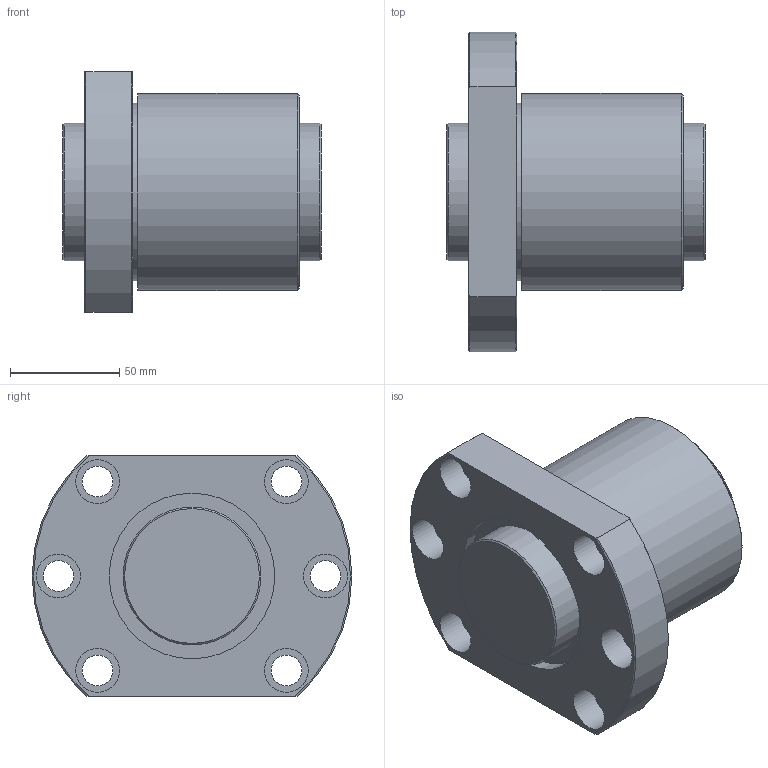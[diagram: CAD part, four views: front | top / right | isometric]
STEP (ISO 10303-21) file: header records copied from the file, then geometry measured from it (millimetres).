
FILE_DESCRIPTION(/* description */ ('STEP AP203'),/* implementation_level */ '2;1');
FILE_NAME(/* name */ 'DK6312-3RRG1+118LC0_000',/* time_stamp */ '2025-01-13T09:32:14+01:00',/* author */ ('License CC BY-ND 4.0'),/* organization */ ('CADENAS'),/* preprocessor_version */ 'ST-DEVELOPER v19.3',/* originating_system */ 'PARTsolutions',/* authorisation */ ' ');
FILE_SCHEMA (('CONFIG_CONTROL_DESIGN'));
Length unit declared in the file: millimetre
Products named in the file (3): DK6312-3RRG1+118LC0_000; DK 6312-3RR011800 Shaft; DK 6312-3RR0Nut
Assembly tree (2 placements, depth 2):
  DK6312-3RRG1+118LC0_000
    DK 6312-3RR011800 Shaft
    DK 6312-3RR0Nut
Bounding box: 118 x 146 x 110 mm (x, y, z)
Volume: 807569.8 mm3; surface area: 111457.7 mm2
Topology: 2 solids, 2 shells, 46 faces, 94 edges, 62 vertices
Faces by surface type: cylinder 21, plane 16, cone 9
Full cylindrical faces by diameter (mm): 8.566 x1, 14 x6, 20 x6, 63 x2, 75.6 x2, 81 x1, 90 x1
Entity records: 1222 total; most frequent: CARTESIAN_POINT 226, DIRECTION 204, ORIENTED_EDGE 134, AXIS2_PLACEMENT_3D 98, EDGE_LOOP 96, FACE_BOUND 96, EDGE_CURVE 67, VERTEX_POINT 59
